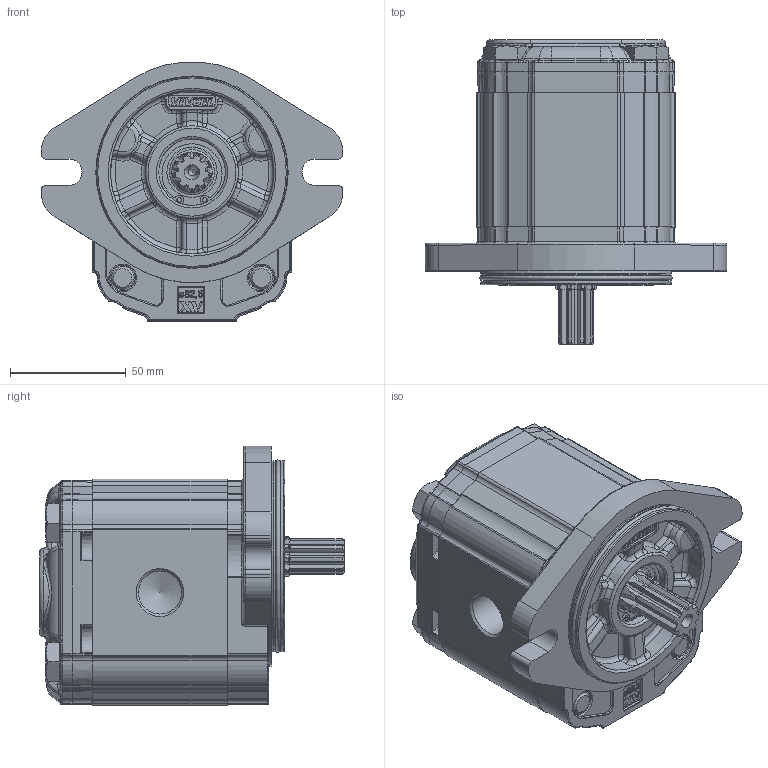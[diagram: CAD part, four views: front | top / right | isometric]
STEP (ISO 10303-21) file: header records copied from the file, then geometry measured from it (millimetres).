
FILE_DESCRIPTION(/* description */ ('Unknown'),/* implementation_level */ '2;1');
FILE_NAME(/* name */ 'X2P4752IBBA',/* time_stamp */ '2020-09-21T11:51:19+02:00',/* author */ ('Unknown'),/* organization */ ('Unknown'),/* preprocessor_version */ 'ST-DEVELOPER v16.7',/* originating_system */ 'DEX',/* authorisation */ $);
FILE_SCHEMA (('AUTOMOTIVE_DESIGN {1 0 10303 214 3 1 1}'));
Products named in the file (5): X2P4752IBBA; X2P52; 2I; X2BBH58; XP219-A
Assembly tree (4 placements, depth 2):
  X2P4752IBBA
    X2P52
    2I
    X2BBH58
    XP219-A
Bounding box: 130.38 x 131.7 x 112.3 mm (x, y, z)
Volume: 760441.6 mm3; surface area: 106209.2 mm2
Topology: 4 solids, 5 shells, 2195 faces, 5407 edges, 3280 vertices
Faces by surface type: cylinder 649, plane 589, bspline 570, torus 246, cone 103, sphere 38
Full cylindrical faces by diameter (mm): 2 x2, 10 x4, 10.5 x4, 11 x2, 16 x4, 17.42 x1, 17.48 x2, 18.631 x1, 18.724 x1, 19 x1, 20.595 x1, 21.741 x1, 25.834 x1, 28.56 x1, 28.57 x1, 28.8 x1, 30.4 x1, 79.6 x2, 82.5 x2
Entity records: 100888 total; most frequent: CARTESIAN_POINT 39076, ORIENTED_EDGE 10468, DIRECTION 8739, EDGE_CURVE 5234, AXIS2_PLACEMENT_3D 3323, VERTEX_POINT 3228, FACE_BOUND 2376, EDGE_LOOP 2372
